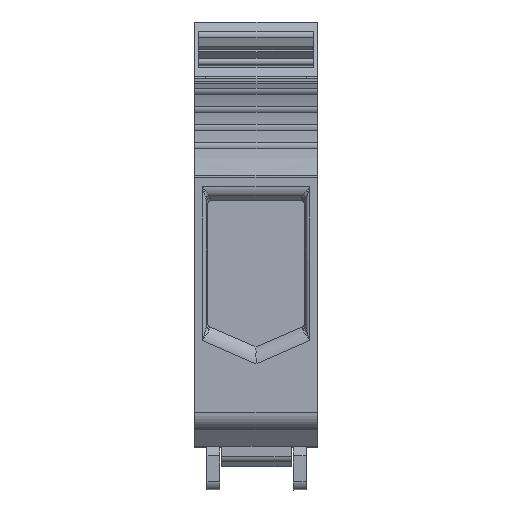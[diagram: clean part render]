
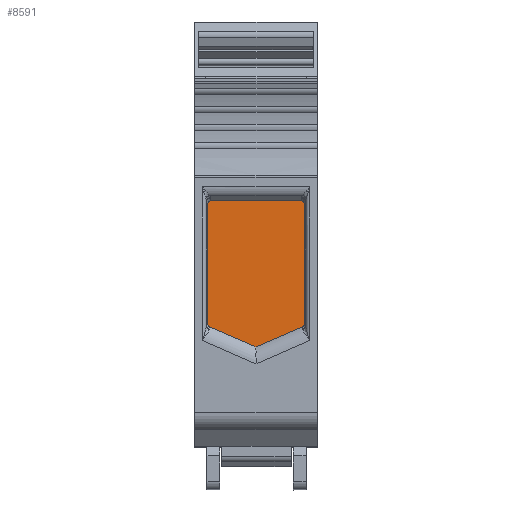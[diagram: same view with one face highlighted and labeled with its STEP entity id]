
A CAD part, top view. The second image highlights one B-rep face of the part: STEP entity #8591.
In plain terms, the highlighted planar face has unit normal (0, 0, 1).
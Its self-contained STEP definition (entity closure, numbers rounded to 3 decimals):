
#977=DIRECTION('',(-0.918,-0.396,0.));
#978=VECTOR('',#977,8.197);
#979=CARTESIAN_POINT('',(16.496,7.741,33.038));
#980=LINE('',#979,#978);
#981=DIRECTION('',(-0.918,0.396,0.));
#982=VECTOR('',#981,8.197);
#983=CARTESIAN_POINT('',(8.97,4.492,33.038));
#984=LINE('',#983,#982);
#985=DIRECTION('',(1.,0.,0.));
#986=VECTOR('',#985,14.63);
#987=CARTESIAN_POINT('',(1.655,28.222,33.038));
#988=LINE('',#987,#986);
#989=CARTESIAN_POINT('',(16.285,28.222,33.038));
#990=CARTESIAN_POINT('',(16.317,28.222,33.038));
#991=CARTESIAN_POINT('',(16.38,28.216,33.038));
#992=CARTESIAN_POINT('',(16.471,28.189,33.038));
#993=CARTESIAN_POINT('',(16.56,28.142,33.038));
#994=CARTESIAN_POINT('',(16.644,28.075,33.038));
#995=CARTESIAN_POINT('',(16.723,27.985,33.038));
#996=CARTESIAN_POINT('',(16.794,27.869,33.038));
#997=CARTESIAN_POINT('',(16.853,27.724,33.038));
#998=CARTESIAN_POINT('',(16.893,27.552,33.038));
#999=CARTESIAN_POINT('',(16.903,27.422,33.038));
#1000=CARTESIAN_POINT('',(16.903,27.353,33.038));
#1008=CARTESIAN_POINT('',(8.97,4.492,33.038));
#1010=CARTESIAN_POINT('',(16.496,7.741,33.038));
#1096=CARTESIAN_POINT('',(1.655,28.222,33.038));
#1097=CARTESIAN_POINT('',(1.623,28.222,33.038));
#1098=CARTESIAN_POINT('',(1.559,28.216,33.038));
#1099=CARTESIAN_POINT('',(1.467,28.188,33.038));
#1100=CARTESIAN_POINT('',(1.379,28.141,33.038));
#1101=CARTESIAN_POINT('',(1.294,28.074,33.038));
#1102=CARTESIAN_POINT('',(1.215,27.983,33.038));
#1103=CARTESIAN_POINT('',(1.144,27.866,33.038));
#1104=CARTESIAN_POINT('',(1.086,27.722,33.038));
#1105=CARTESIAN_POINT('',(1.047,27.551,33.038));
#1106=CARTESIAN_POINT('',(1.037,27.422,33.038));
#1107=CARTESIAN_POINT('',(1.037,27.353,33.038));
#1109=DIRECTION('',(0.,-1.,0.));
#1110=VECTOR('',#1109,18.938);
#1111=CARTESIAN_POINT('',(1.037,27.353,33.038));
#1112=LINE('',#1111,#1110);
#1128=CARTESIAN_POINT('',(1.037,8.416,33.038));
#1129=CARTESIAN_POINT('',(1.037,8.34,33.038));
#1130=CARTESIAN_POINT('',(1.056,8.197,33.038));
#1131=CARTESIAN_POINT('',(1.144,7.99,33.038));
#1132=CARTESIAN_POINT('',(1.282,7.83,33.038));
#1133=CARTESIAN_POINT('',(1.387,7.765,33.038));
#1134=CARTESIAN_POINT('',(1.444,7.741,33.038));
#1172=CARTESIAN_POINT('',(16.496,7.741,33.038));
#1173=CARTESIAN_POINT('',(16.557,7.767,33.038));
#1174=CARTESIAN_POINT('',(16.665,7.837,33.038));
#1175=CARTESIAN_POINT('',(16.794,7.989,33.038));
#1176=CARTESIAN_POINT('',(16.88,8.185,33.038));
#1177=CARTESIAN_POINT('',(16.903,8.335,33.038));
#1178=CARTESIAN_POINT('',(16.903,8.416,33.038));
#1180=DIRECTION('',(0.,1.,0.));
#1181=VECTOR('',#1180,18.938);
#1182=CARTESIAN_POINT('',(16.903,8.416,33.038));
#1183=LINE('',#1182,#1181);
#6158=VERTEX_POINT('',#1010);
#6159=VERTEX_POINT('',#989);
#6160=VERTEX_POINT('',#1000);
#6161=VERTEX_POINT('',#1178);
#7038=CARTESIAN_POINT('',(1.655,28.222,33.038));
#7039=VERTEX_POINT('',#7038);
#7040=VERTEX_POINT('',#1128);
#7041=VERTEX_POINT('',#1134);
#7042=VERTEX_POINT('',#1107);
#7136=VERTEX_POINT('',#1008);
#8567=CARTESIAN_POINT('',(12.936,16.357,33.038));
#8568=DIRECTION('',(0.,0.,1.));
#8569=DIRECTION('',(0.,1.,0.));
#8570=AXIS2_PLACEMENT_3D('',#8567,#8568,#8569);
#8571=PLANE('',#8570);
#8573=ORIENTED_EDGE('',*,*,#8572,.T.);
#8575=ORIENTED_EDGE('',*,*,#8574,.T.);
#8577=ORIENTED_EDGE('',*,*,#8576,.F.);
#8579=ORIENTED_EDGE('',*,*,#8578,.F.);
#8581=ORIENTED_EDGE('',*,*,#8580,.F.);
#8582=ORIENTED_EDGE('',*,*,#8550,.T.);
#8584=ORIENTED_EDGE('',*,*,#8583,.T.);
#8586=ORIENTED_EDGE('',*,*,#8585,.F.);
#8588=ORIENTED_EDGE('',*,*,#8587,.F.);
#8589=EDGE_LOOP('',(#8573,#8575,#8577,#8579,#8581,#8582,#8584,#8586,#8588));
#8590=FACE_OUTER_BOUND('',#8589,.F.);
#1001=B_SPLINE_CURVE_WITH_KNOTS('',3,(#989,#990,#991,#992,#993,#994,#995,#996,
#997,#998,#999,#1000),.UNSPECIFIED.,.F.,.F.,(4,1,1,1,1,1,1,1,1,4),(0.,
0.111,0.222,0.333,0.444,
0.556,0.667,0.778,0.889,1.),
.UNSPECIFIED.);
#1108=B_SPLINE_CURVE_WITH_KNOTS('',3,(#1096,#1097,#1098,#1099,#1100,#1101,#1102,
#1103,#1104,#1105,#1106,#1107),.UNSPECIFIED.,.F.,.F.,(4,1,1,1,1,1,1,1,1,4),
(0.,0.111,0.222,0.333,0.444,
0.556,0.667,0.778,0.889,1.),
.UNSPECIFIED.);
#1135=B_SPLINE_CURVE_WITH_KNOTS('',3,(#1128,#1129,#1130,#1131,#1132,#1133,
#1134),.UNSPECIFIED.,.F.,.F.,(4,1,1,1,4),(0.,0.25,0.5,0.75,1.),
.UNSPECIFIED.);
#1179=B_SPLINE_CURVE_WITH_KNOTS('',3,(#1172,#1173,#1174,#1175,#1176,#1177,
#1178),.UNSPECIFIED.,.F.,.F.,(4,1,1,1,4),(0.,0.25,0.5,0.75,1.),
.UNSPECIFIED.);
#8550=EDGE_CURVE('',#7039,#6159,#988,.T.);
#8572=EDGE_CURVE('',#6158,#7136,#980,.T.);
#8574=EDGE_CURVE('',#7136,#7041,#984,.T.);
#8576=EDGE_CURVE('',#7040,#7041,#1135,.T.);
#8578=EDGE_CURVE('',#7042,#7040,#1112,.T.);
#8580=EDGE_CURVE('',#7039,#7042,#1108,.T.);
#8583=EDGE_CURVE('',#6159,#6160,#1001,.T.);
#8585=EDGE_CURVE('',#6161,#6160,#1183,.T.);
#8587=EDGE_CURVE('',#6158,#6161,#1179,.T.);
#8591=ADVANCED_FACE('',(#8590),#8571,.T.);
